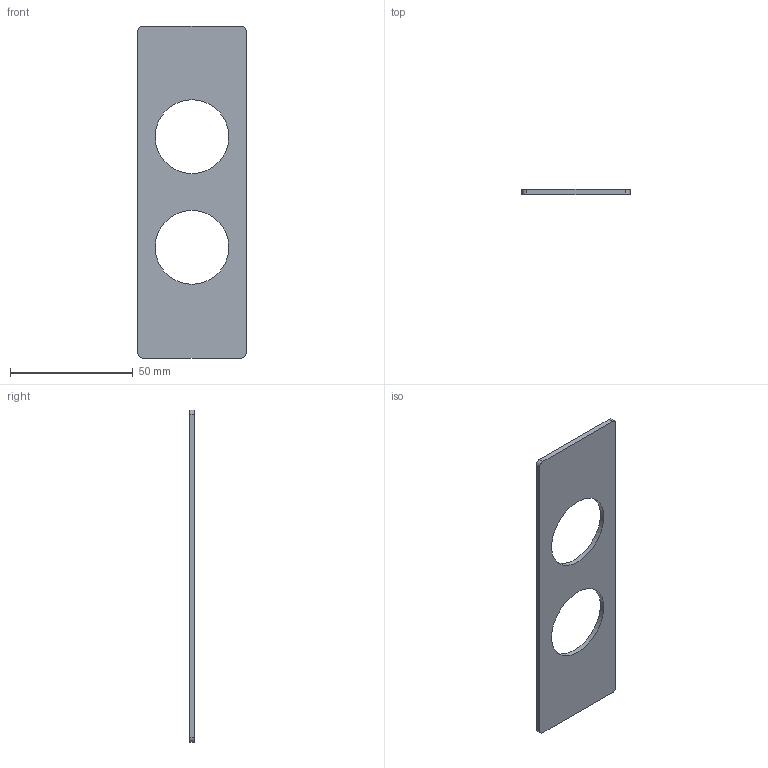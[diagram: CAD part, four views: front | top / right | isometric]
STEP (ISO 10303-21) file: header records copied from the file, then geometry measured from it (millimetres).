
FILE_DESCRIPTION((''),'2;1');
FILE_NAME('TAP045135_2','2002-12-27T',('Lipro doo'),('Lipro d.o.o.'),'PRO/ENGINEER BY PARAMETRIC TECHNOLOGY CORPORATION, 2001150','PRO/ENGINEER BY PARAMETRIC TECHNOLOGY CORPORATION, 2001150','');
FILE_SCHEMA(('CONFIG_CONTROL_DESIGN'));
Length unit declared in the file: millimetre
Products named in the file (1): TAP045135_2
Bounding box: 44 x 2 x 135 mm (x, y, z)
Volume: 9045.7 mm3; surface area: 10131.8 mm2
Topology: 1 solids, 1 shells, 14 faces, 36 edges, 24 vertices
Faces by surface type: cylinder 8, plane 6
Entity records: 482 total; most frequent: DIRECTION 80, CARTESIAN_POINT 74, ORIENTED_EDGE 72, EDGE_CURVE 36, AXIS2_PLACEMENT_3D 30, VERTEX_POINT 24, VECTOR 20, LINE 20
